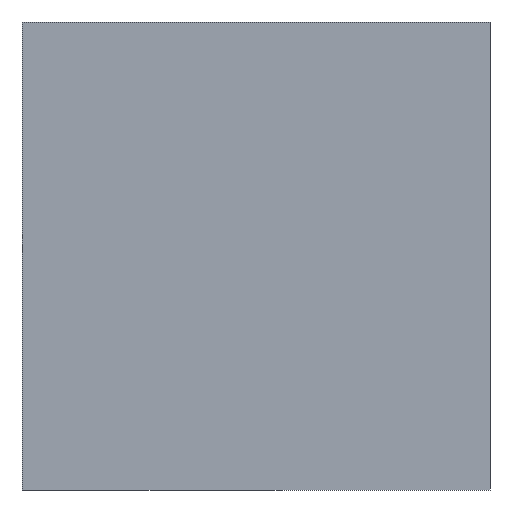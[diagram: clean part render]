
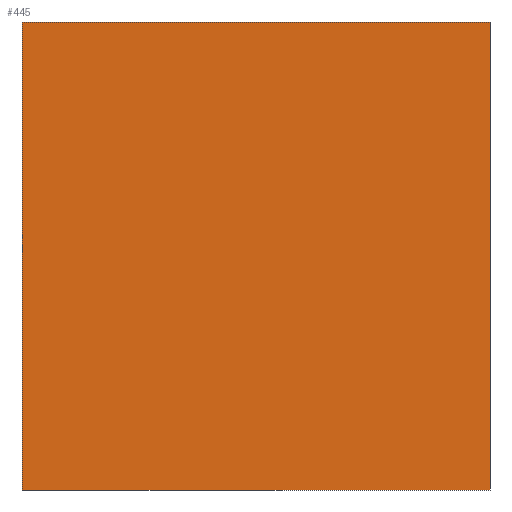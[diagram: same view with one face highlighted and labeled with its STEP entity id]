
A CAD part, left-side view. The second image highlights one B-rep face of the part: STEP entity #445.
In plain terms, the highlighted planar face has unit normal (-1, 0, 0).
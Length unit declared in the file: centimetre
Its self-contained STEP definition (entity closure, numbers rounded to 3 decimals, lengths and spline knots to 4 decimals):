
#2 = CARTESIAN_POINT ( 'NONE',  ( 0., 1000., 0. ) ) ;
#15 = FACE_OUTER_BOUND ( 'NONE', #409, .T. ) ;
#36 = EDGE_CURVE ( 'NONE', #534, #479, #247, .T. ) ;
#38 = DIRECTION ( 'NONE',  ( 0., -1., 0. ) ) ;
#62 = VECTOR ( 'NONE', #682, 100. ) ;
#65 = VECTOR ( 'NONE', #447, 100. ) ;
#67 = ORIENTED_EDGE ( 'NONE', *, *, #36, .T. ) ;
#71 = EDGE_CURVE ( 'NONE', #479, #819, #300, .T. ) ;
#139 = CARTESIAN_POINT ( 'NONE',  ( 0., 1000., 1000. ) ) ;
#168 = CARTESIAN_POINT ( 'NONE',  ( 0., 0., 1000. ) ) ;
#182 = ORIENTED_EDGE ( 'NONE', *, *, #369, .F. ) ;
#185 = DIRECTION ( 'NONE',  ( 0., -1., 0. ) ) ;
#205 = PLANE ( 'NONE',  #788 ) ;
#247 = LINE ( 'NONE', #748, #62 ) ;
#300 = LINE ( 'NONE', #746, #755 ) ;
#301 = LINE ( 'NONE', #168, #65 ) ;
#359 = VERTEX_POINT ( 'NONE', #713 ) ;
#369 = EDGE_CURVE ( 'NONE', #534, #359, #640, .T. ) ;
#393 = DIRECTION ( 'NONE',  ( 1., 0., 0. ) ) ;
#409 = EDGE_LOOP ( 'NONE', ( #481, #657, #182, #67 ) ) ;
#445 = ADVANCED_FACE ( 'NONE', ( #15 ), #205, .F. ) ;
#447 = DIRECTION ( 'NONE',  ( 0., 0., -1. ) ) ;
#479 = VERTEX_POINT ( 'NONE', #2 ) ;
#481 = ORIENTED_EDGE ( 'NONE', *, *, #71, .T. ) ;
#527 = CARTESIAN_POINT ( 'NONE',  ( 0., 1000., 1000. ) ) ;
#530 = VECTOR ( 'NONE', #185, 100. ) ;
#534 = VERTEX_POINT ( 'NONE', #139 ) ;
#640 = LINE ( 'NONE', #527, #530 ) ;
#656 = EDGE_CURVE ( 'NONE', #359, #819, #301, .T. ) ;
#657 = ORIENTED_EDGE ( 'NONE', *, *, #656, .F. ) ;
#682 = DIRECTION ( 'NONE',  ( 0., 0., -1. ) ) ;
#713 = CARTESIAN_POINT ( 'NONE',  ( 0., 0., 1000. ) ) ;
#744 = CARTESIAN_POINT ( 'NONE',  ( 0., 0., 0. ) ) ;
#746 = CARTESIAN_POINT ( 'NONE',  ( 0., 1000., 0. ) ) ;
#748 = CARTESIAN_POINT ( 'NONE',  ( 0., 1000., 1000. ) ) ;
#755 = VECTOR ( 'NONE', #38, 100. ) ;
#788 = AXIS2_PLACEMENT_3D ( 'NONE', #795, #393, #790 ) ;
#790 = DIRECTION ( 'NONE',  ( 0., 0., -1. ) ) ;
#795 = CARTESIAN_POINT ( 'NONE',  ( 0., 1000., 1000. ) ) ;
#819 = VERTEX_POINT ( 'NONE', #744 ) ;
